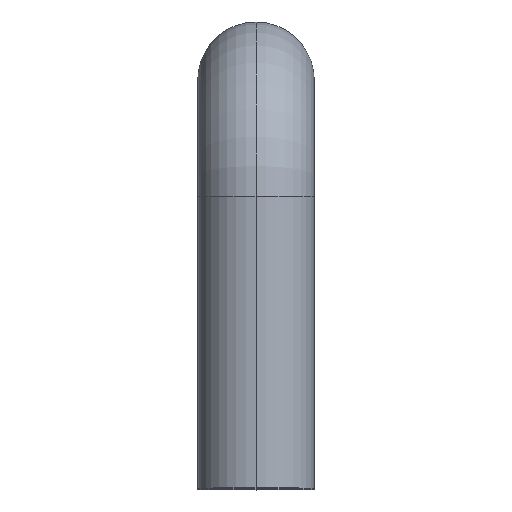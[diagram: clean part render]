
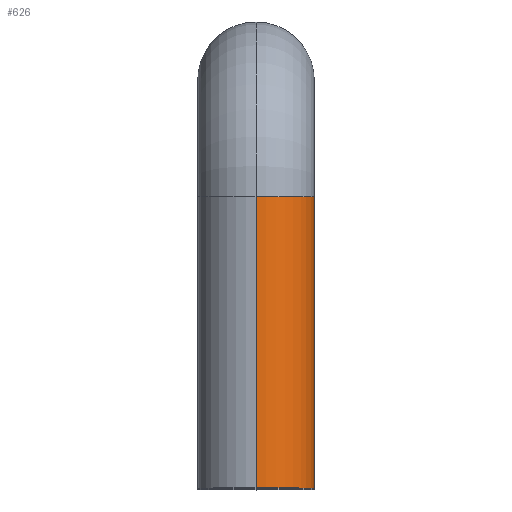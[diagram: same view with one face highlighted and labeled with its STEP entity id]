
A CAD part, top view. The second image highlights one B-rep face of the part: STEP entity #626.
In plain terms, the highlighted cylindrical face has radius 5 mm (diameter 10 mm), a partial arc.
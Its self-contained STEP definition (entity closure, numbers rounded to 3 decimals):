
#46 = CARTESIAN_POINT ( 'NONE',  ( 0., 0., 0. ) ) ;
#51 = CARTESIAN_POINT ( 'NONE',  ( 0., 25., 5. ) ) ;
#64 = EDGE_LOOP ( 'NONE', ( #502, #149, #228, #110 ) ) ;
#88 = CIRCLE ( 'NONE', #595, 5. ) ;
#98 = VERTEX_POINT ( 'NONE', #151 ) ;
#110 = ORIENTED_EDGE ( 'NONE', *, *, #249, .F. ) ;
#135 = AXIS2_PLACEMENT_3D ( 'NONE', #46, #587, #579 ) ;
#146 = CARTESIAN_POINT ( 'NONE',  ( 0., 0., 5. ) ) ;
#149 = ORIENTED_EDGE ( 'NONE', *, *, #270, .T. ) ;
#151 = CARTESIAN_POINT ( 'NONE',  ( 0., 0., -5. ) ) ;
#176 = VERTEX_POINT ( 'NONE', #51 ) ;
#210 = CARTESIAN_POINT ( 'NONE',  ( 0., 0., 0. ) ) ;
#211 = CARTESIAN_POINT ( 'NONE',  ( 0., 0., 5. ) ) ;
#221 = DIRECTION ( 'NONE',  ( 0., 0., 1. ) ) ;
#228 = ORIENTED_EDGE ( 'NONE', *, *, #469, .F. ) ;
#249 = EDGE_CURVE ( 'NONE', #339, #176, #582, .T. ) ;
#270 = EDGE_CURVE ( 'NONE', #98, #411, #495, .T. ) ;
#305 = DIRECTION ( 'NONE',  ( 0., 0., 1. ) ) ;
#310 = DIRECTION ( 'NONE',  ( 0., 1., 0. ) ) ;
#339 = VERTEX_POINT ( 'NONE', #211 ) ;
#362 = VECTOR ( 'NONE', #410, 1000. ) ;
#398 = EDGE_CURVE ( 'NONE', #339, #98, #470, .T. ) ;
#410 = DIRECTION ( 'NONE',  ( 0., 1., 0. ) ) ;
#411 = VERTEX_POINT ( 'NONE', #554 ) ;
#450 = AXIS2_PLACEMENT_3D ( 'NONE', #210, #310, #305 ) ;
#454 = CARTESIAN_POINT ( 'NONE',  ( 0., 0., -5. ) ) ;
#469 = EDGE_CURVE ( 'NONE', #176, #411, #88, .T. ) ;
#470 = CIRCLE ( 'NONE', #450, 5. ) ;
#495 = LINE ( 'NONE', #454, #362 ) ;
#502 = ORIENTED_EDGE ( 'NONE', *, *, #398, .T. ) ;
#535 = DIRECTION ( 'NONE',  ( 0., 1., 0. ) ) ;
#539 = FACE_OUTER_BOUND ( 'NONE', #64, .T. ) ;
#554 = CARTESIAN_POINT ( 'NONE',  ( 0., 25., -5. ) ) ;
#567 = CARTESIAN_POINT ( 'NONE',  ( 0., 25., 0. ) ) ;
#579 = DIRECTION ( 'NONE',  ( 0., 0., 1. ) ) ;
#582 = LINE ( 'NONE', #146, #627 ) ;
#587 = DIRECTION ( 'NONE',  ( 0., 1., 0. ) ) ;
#595 = AXIS2_PLACEMENT_3D ( 'NONE', #567, #614, #221 ) ;
#614 = DIRECTION ( 'NONE',  ( 0., 1., 0. ) ) ;
#622 = CYLINDRICAL_SURFACE ( 'NONE', #135, 5. ) ;
#626 = ADVANCED_FACE ( 'NONE', ( #539 ), #622, .T. ) ;
#627 = VECTOR ( 'NONE', #535, 1000. ) ;
